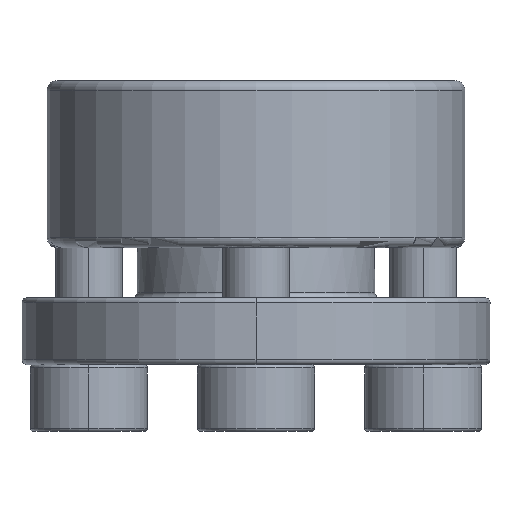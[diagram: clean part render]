
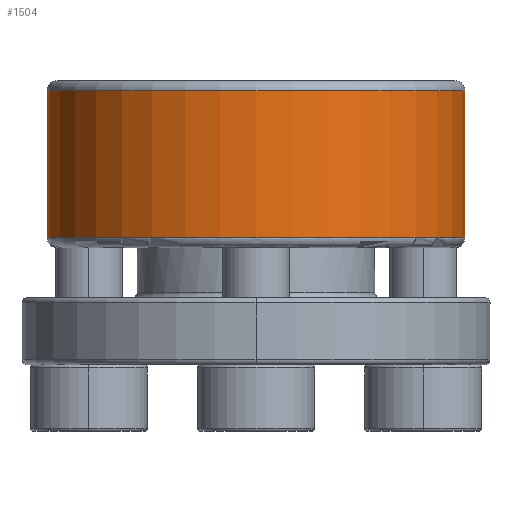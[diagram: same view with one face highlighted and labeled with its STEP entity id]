
A CAD part, front view. The second image highlights one B-rep face of the part: STEP entity #1504.
In plain terms, the highlighted cylindrical face has radius 12.5 mm (diameter 25 mm), a partial arc.
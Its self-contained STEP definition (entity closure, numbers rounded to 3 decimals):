
#1504 = ADVANCED_FACE ( 'NONE', ( #2353 ), #2349, .T. ) ;
#1668 = EDGE_LOOP ( 'NONE', ( #1886, #1891, #1901, #2012 ) ) ;
#1886 = ORIENTED_EDGE ( 'NONE', *, *, #3419, .F. ) ;
#1891 = ORIENTED_EDGE ( 'NONE', *, *, #3420, .T. ) ;
#1901 = ORIENTED_EDGE ( 'NONE', *, *, #3452, .T. ) ;
#2012 = ORIENTED_EDGE ( 'NONE', *, *, #4709, .F. ) ;
#2074 = VERTEX_POINT ( 'NONE', #4238 ) ;
#2178 = VERTEX_POINT ( 'NONE', #4819 ) ;
#2179 = VERTEX_POINT ( 'NONE', #4820 ) ;
#2182 = VERTEX_POINT ( 'NONE', #4823 ) ;
#2349 = CYLINDRICAL_SURFACE ( 'NONE', #3005, 12.5 ) ;
#2353 = FACE_OUTER_BOUND ( 'NONE', #1668, .T. ) ;
#2766 = DIRECTION ( 'NONE',  ( 1., 0., 0. ) ) ;
#2768 = DIRECTION ( 'NONE',  ( 0., 0., 1. ) ) ;
#2770 = CARTESIAN_POINT ( 'NONE',  ( 0., 0., 0.4 ) ) ;
#3005 = AXIS2_PLACEMENT_3D ( 'NONE', #2770, #2768, #2766 ) ;
#3419 = EDGE_CURVE ( 'NONE', #2178, #2074, #4366, .T. ) ;
#3420 = EDGE_CURVE ( 'NONE', #2178, #2182, #4336, .T. ) ;
#3452 = EDGE_CURVE ( 'NONE', #2182, #2179, #4406, .T. ) ;
#3747 = CARTESIAN_POINT ( 'NONE',  ( 0., 0., -0.6 ) ) ;
#3748 = DIRECTION ( 'NONE',  ( 0., 0., 1. ) ) ;
#3749 = DIRECTION ( 'NONE',  ( 1., 0., 0. ) ) ;
#4238 = CARTESIAN_POINT ( 'NONE',  ( -12.5, 0., -0.6 ) ) ;
#4336 = CIRCLE ( 'NONE', #5339, 12.5 ) ;
#4366 = LINE ( 'NONE', #5061, #4368 ) ;
#4368 = VECTOR ( 'NONE', #5062, 1000. ) ;
#4406 = LINE ( 'NONE', #5175, #4408 ) ;
#4408 = VECTOR ( 'NONE', #5176, 1000. ) ;
#4507 = CIRCLE ( 'NONE', #5409, 12.5 ) ;
#4709 = EDGE_CURVE ( 'NONE', #2074, #2179, #4507, .T. ) ;
#4819 = CARTESIAN_POINT ( 'NONE',  ( -12.5, 0., -9.4 ) ) ;
#4820 = CARTESIAN_POINT ( 'NONE',  ( 12.5, 0., -0.6 ) ) ;
#4823 = CARTESIAN_POINT ( 'NONE',  ( 12.5, 0., -9.4 ) ) ;
#5061 = CARTESIAN_POINT ( 'NONE',  ( -12.5, 0., 0.4 ) ) ;
#5062 = DIRECTION ( 'NONE',  ( 0., 0., 1. ) ) ;
#5073 = CARTESIAN_POINT ( 'NONE',  ( 0., 0., -9.4 ) ) ;
#5074 = DIRECTION ( 'NONE',  ( 0., 0., 1. ) ) ;
#5075 = DIRECTION ( 'NONE',  ( 1., 0., 0. ) ) ;
#5175 = CARTESIAN_POINT ( 'NONE',  ( 12.5, 0., 0.4 ) ) ;
#5176 = DIRECTION ( 'NONE',  ( 0., 0., 1. ) ) ;
#5339 = AXIS2_PLACEMENT_3D ( 'NONE', #5073, #5074, #5075 ) ;
#5409 = AXIS2_PLACEMENT_3D ( 'NONE', #3747, #3748, #3749 ) ;
